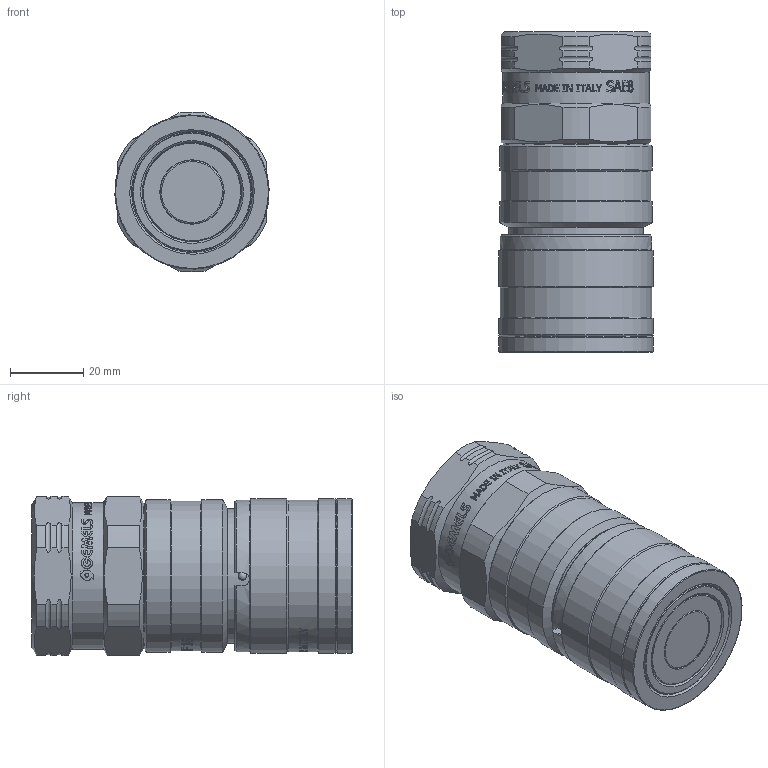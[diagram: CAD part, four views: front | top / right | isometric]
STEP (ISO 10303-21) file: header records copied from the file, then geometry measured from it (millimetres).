
FILE_DESCRIPTION(/* description */ (''),/* implementation_level */ '2;1');
FILE_NAME(/* name */ 'NC06S030004.stp',/* time_stamp */ '2024-11-22T14:55:56+01:00',/* author */ ('thomas.belotti'),/* organization */ (''),/* preprocessor_version */ 'ST-DEVELOPER v20',/* originating_system */ 'Autodesk Inventor 2024',/* authorisation */ '');
FILE_SCHEMA (('AUTOMOTIVE_DESIGN { 1 0 10303 214 3 1 1 }','MODEL_BASED_INTEGRATED_MANUFACTURING_SCHEMA'));
Products named in the file (1): Parte7
Bounding box: 42.16 x 87.49 x 43.73 mm (x, y, z)
Volume: 114110.3 mm3; surface area: 18008.3 mm2
Topology: 1 solids, 3 shells, 1638 faces, 4642 edges, 3082 vertices
Faces by surface type: bspline 1052, plane 413, cylinder 127, cone 24, torus 16, sphere 6
Full cylindrical faces by diameter (mm): 2.3 x4, 17.323 x1, 17.5 x1, 17.6 x1, 18 x1, 27 x1, 27.1 x1, 32.5 x1, 33.05 x1, 36.9 x1, 37 x1, 37.1 x1, 37.3 x1, 40 x1, 41 x1, 41.5 x1, 41.7 x2, 42.2 x3
Entity records: 70806 total; most frequent: CARTESIAN_POINT 33582, ORIENTED_EDGE 9280, EDGE_CURVE 4640, DIRECTION 4155, VERTEX_POINT 3082, B_SPLINE_CURVE_WITH_KNOTS 2209, LINE 1825, VECTOR 1825
